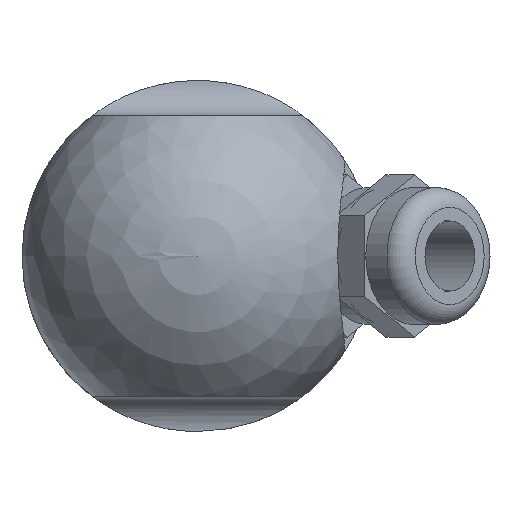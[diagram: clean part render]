
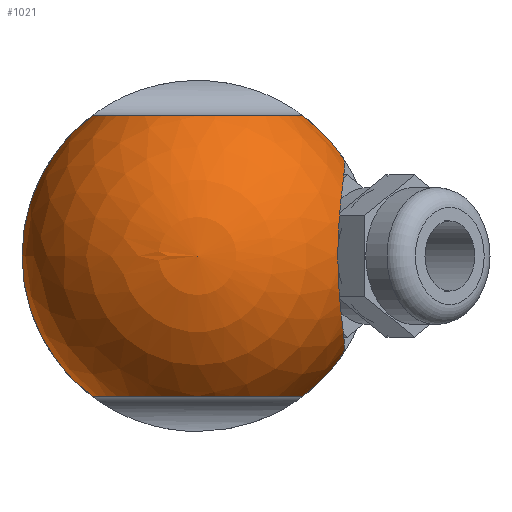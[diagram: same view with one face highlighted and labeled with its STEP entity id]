
A CAD part, left-side view. The second image highlights one B-rep face of the part: STEP entity #1021.
In plain terms, the highlighted spherical face has radius 17.5 mm.
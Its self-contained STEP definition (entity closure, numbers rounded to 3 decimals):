
#22=SPHERICAL_SURFACE('',#1171,17.5);
#27=B_SPLINE_CURVE_WITH_KNOTS('',3,(#1828,#1829,#1830,#1831,#1832,#1833,
#1834,#1835,#1836,#1837,#1838),.UNSPECIFIED.,.F.,.F.,(4,1,1,1,1,1,1,1,4),
(0.,0.004,0.008,0.012,
0.016,0.019,0.023,0.027,
0.031),.UNSPECIFIED.);
#399=ORIENTED_EDGE('',*,*,#540,.F.);
#400=ORIENTED_EDGE('',*,*,#541,.T.);
#401=ORIENTED_EDGE('',*,*,#542,.F.);
#402=ORIENTED_EDGE('',*,*,#533,.T.);
#403=ORIENTED_EDGE('',*,*,#543,.F.);
#404=ORIENTED_EDGE('',*,*,#539,.T.);
#533=EDGE_CURVE('',#629,#630,#687,.F.);
#539=EDGE_CURVE('',#634,#635,#689,.F.);
#540=EDGE_CURVE('',#636,#635,#690,.T.);
#541=EDGE_CURVE('',#636,#637,#27,.T.);
#542=EDGE_CURVE('',#629,#637,#691,.T.);
#543=EDGE_CURVE('',#634,#630,#692,.T.);
#629=VERTEX_POINT('',#1793);
#630=VERTEX_POINT('',#1795);
#634=VERTEX_POINT('',#1821);
#635=VERTEX_POINT('',#1823);
#636=VERTEX_POINT('',#1827);
#637=VERTEX_POINT('',#1839);
#687=CIRCLE('',#1165,10.5);
#689=CIRCLE('',#1170,10.5);
#690=CIRCLE('',#1172,17.5);
#691=CIRCLE('',#1173,17.5);
#692=CIRCLE('',#1174,17.5);
#806=EDGE_LOOP('',(#399,#400,#401,#402,#403,#404));
#924=FACE_BOUND('',#806,.T.);
#1021=ADVANCED_FACE('',(#924),#22,.T.);
#1165=AXIS2_PLACEMENT_3D('',#1796,#1465,#1466);
#1170=AXIS2_PLACEMENT_3D('',#1824,#1478,#1479);
#1171=AXIS2_PLACEMENT_3D('',#1825,#1480,#1481);
#1172=AXIS2_PLACEMENT_3D('',#1826,#1482,#1483);
#1173=AXIS2_PLACEMENT_3D('',#1840,#1484,#1485);
#1174=AXIS2_PLACEMENT_3D('',#1841,#1486,#1487);
#1465=DIRECTION('',(0.,0.,1.));
#1466=DIRECTION('',(1.,0.,0.));
#1478=DIRECTION('',(0.,0.,-1.));
#1479=DIRECTION('',(-1.,0.,0.));
#1480=DIRECTION('',(1.,0.,0.));
#1481=DIRECTION('',(0.,1.,0.));
#1482=DIRECTION('',(1.,0.,0.));
#1483=DIRECTION('',(0.,0.,-1.));
#1484=DIRECTION('',(1.,0.,0.));
#1485=DIRECTION('',(0.,0.,-1.));
#1486=DIRECTION('',(1.,0.,0.));
#1487=DIRECTION('',(0.,0.,-1.));
#1793=CARTESIAN_POINT('',(0.,-10.5,14.));
#1795=CARTESIAN_POINT('',(0.,10.5,14.));
#1796=CARTESIAN_POINT('',(0.,0.,14.));
#1821=CARTESIAN_POINT('',(0.,10.5,-14.));
#1823=CARTESIAN_POINT('',(0.,-10.5,-14.));
#1824=CARTESIAN_POINT('',(0.,0.,-14.));
#1825=CARTESIAN_POINT('',(0.,0.,0.));
#1826=CARTESIAN_POINT('',(0.,0.,0.));
#1827=CARTESIAN_POINT('',(0.,-14.529,-9.755));
#1828=CARTESIAN_POINT('',(0.,-14.529,-9.755));
#1829=CARTESIAN_POINT('',(-1.295,-14.654,-9.568));
#1830=CARTESIAN_POINT('',(-3.819,-14.715,-8.959));
#1831=CARTESIAN_POINT('',(-7.292,-14.463,-7.013));
#1832=CARTESIAN_POINT('',(-9.831,-14.113,-3.96));
#1833=CARTESIAN_POINT('',(-10.825,-13.945,-0.043));
#1834=CARTESIAN_POINT('',(-9.869,-14.107,3.894));
#1835=CARTESIAN_POINT('',(-7.329,-14.458,6.985));
#1836=CARTESIAN_POINT('',(-3.86,-14.715,8.946));
#1837=CARTESIAN_POINT('',(-1.299,-14.655,9.568));
#1838=CARTESIAN_POINT('',(0.,-14.529,9.755));
#1839=CARTESIAN_POINT('',(0.,-14.529,9.755));
#1840=CARTESIAN_POINT('',(0.,0.,0.));
#1841=CARTESIAN_POINT('',(0.,0.,0.));
